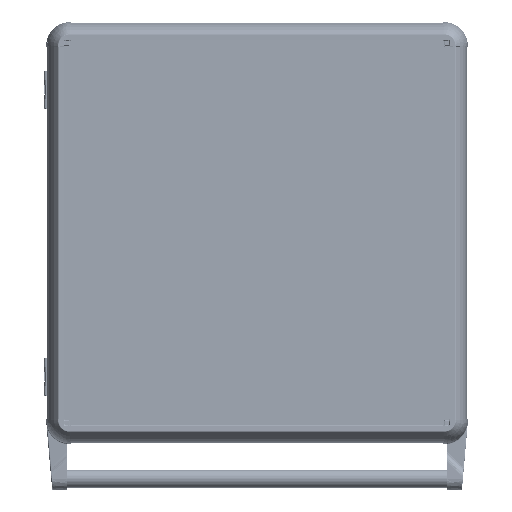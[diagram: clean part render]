
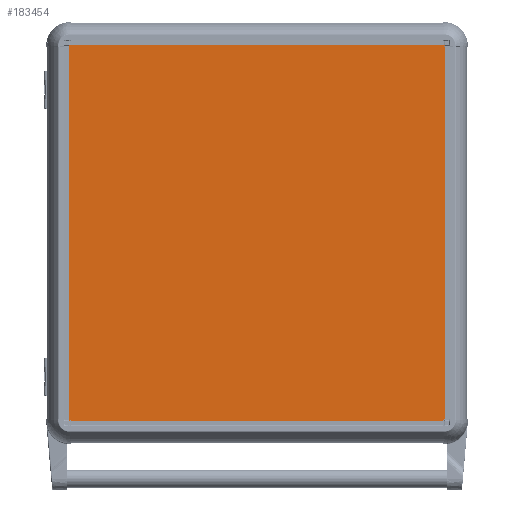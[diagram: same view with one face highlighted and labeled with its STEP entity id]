
A CAD part, top view. The second image highlights one B-rep face of the part: STEP entity #183454.
In plain terms, the highlighted planar face has unit normal (0, 0, 1).
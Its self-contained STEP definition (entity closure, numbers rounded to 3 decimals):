
#5001 = CARTESIAN_POINT ( 'NONE',  ( -200., -200., 2. ) ) ;
#17303 = EDGE_LOOP ( 'NONE', ( #235725, #67281, #103381, #261406 ) ) ;
#17879 = EDGE_CURVE ( 'NONE', #295386, #264380, #220424, .T. ) ;
#32106 = DIRECTION ( 'NONE',  ( 0., 0., 1. ) ) ;
#38637 = CARTESIAN_POINT ( 'NONE',  ( -200., 200., 2. ) ) ;
#55283 = DIRECTION ( 'NONE',  ( 0., 1., 0. ) ) ;
#55485 = FACE_OUTER_BOUND ( 'NONE', #17303, .T. ) ;
#57009 = PLANE ( 'NONE',  #165252 ) ;
#61977 = LINE ( 'NONE', #38637, #124324 ) ;
#66600 = DIRECTION ( 'NONE',  ( -1., 0., 0. ) ) ;
#67281 = ORIENTED_EDGE ( 'NONE', *, *, #87328, .T. ) ;
#82708 = CARTESIAN_POINT ( 'NONE',  ( -200., -200., 2. ) ) ;
#83243 = EDGE_CURVE ( 'NONE', #176706, #295386, #218512, .T. ) ;
#87328 = EDGE_CURVE ( 'NONE', #264380, #225615, #61977, .T. ) ;
#89542 = CARTESIAN_POINT ( 'NONE',  ( -200., 200., 2. ) ) ;
#98232 = CARTESIAN_POINT ( 'NONE',  ( -200., 200., 2. ) ) ;
#103381 = ORIENTED_EDGE ( 'NONE', *, *, #171956, .T. ) ;
#123187 = VECTOR ( 'NONE', #55283, 1000. ) ;
#124324 = VECTOR ( 'NONE', #66600, 1000. ) ;
#150619 = CARTESIAN_POINT ( 'NONE',  ( 0., 0., 2. ) ) ;
#165252 = AXIS2_PLACEMENT_3D ( 'NONE', #150619, #32106, #270474 ) ;
#171956 = EDGE_CURVE ( 'NONE', #225615, #176706, #282636, .T. ) ;
#176706 = VERTEX_POINT ( 'NONE', #82708 ) ;
#183454 = ADVANCED_FACE ( 'NONE', ( #55485 ), #57009, .T. ) ;
#184602 = DIRECTION ( 'NONE',  ( 0., -1., 0. ) ) ;
#218512 = LINE ( 'NONE', #5001, #262204 ) ;
#220424 = LINE ( 'NONE', #292092, #123187 ) ;
#225615 = VERTEX_POINT ( 'NONE', #98232 ) ;
#235725 = ORIENTED_EDGE ( 'NONE', *, *, #17879, .T. ) ;
#236006 = CARTESIAN_POINT ( 'NONE',  ( 200., 200., 2. ) ) ;
#240352 = DIRECTION ( 'NONE',  ( 1., 0., 0. ) ) ;
#246667 = CARTESIAN_POINT ( 'NONE',  ( 200., -200., 2. ) ) ;
#261406 = ORIENTED_EDGE ( 'NONE', *, *, #83243, .T. ) ;
#262204 = VECTOR ( 'NONE', #240352, 1000. ) ;
#264380 = VERTEX_POINT ( 'NONE', #236006 ) ;
#270474 = DIRECTION ( 'NONE',  ( 1., 0., 0. ) ) ;
#282636 = LINE ( 'NONE', #89542, #301911 ) ;
#292092 = CARTESIAN_POINT ( 'NONE',  ( 200., 200., 2. ) ) ;
#295386 = VERTEX_POINT ( 'NONE', #246667 ) ;
#301911 = VECTOR ( 'NONE', #184602, 1000. ) ;
